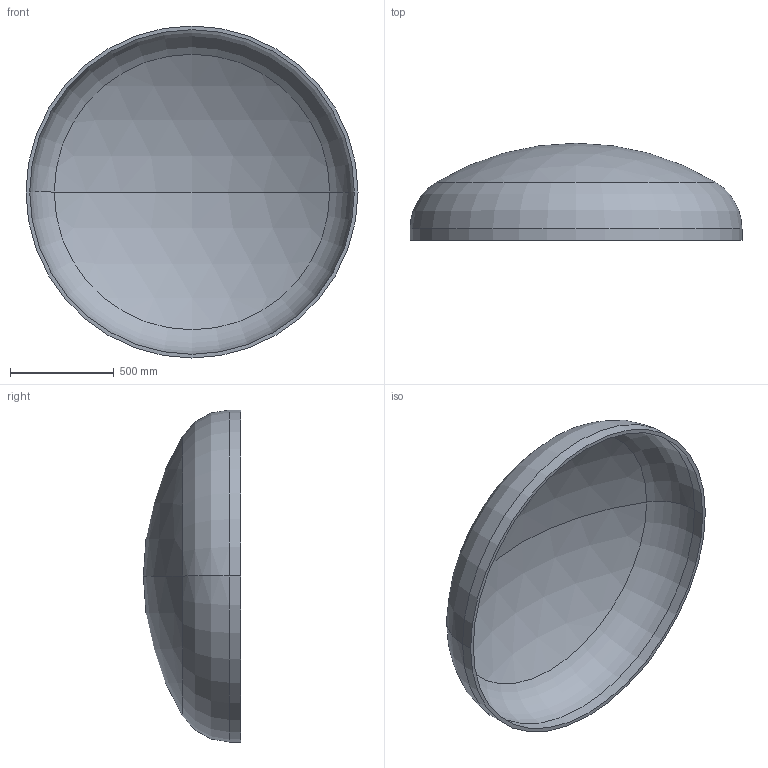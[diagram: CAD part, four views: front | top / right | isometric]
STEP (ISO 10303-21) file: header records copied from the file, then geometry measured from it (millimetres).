
FILE_DESCRIPTION (( 'STEP AP203' ), '1' );
FILE_NAME ('DIN 28013 Korbbogenform_-_Boden DIN 28013 - 1600 x 55 - I - s=18.step', '2016-07-01T11:07:33', ( '' ), ( '' ), 'SwSTEP 2.0', 'SolidWorks 2013', '' );
FILE_SCHEMA (( 'CONFIG_CONTROL_DESIGN' ));
Length unit declared in the file: millimetre
Products named in the file (1): DIN 28013 Korbbogenform_-_Boden DIN 28013 - 1600 x 55 - I - s=18
Bounding box: 1600 x 468.21 x 1600 mm (x, y, z)
Volume: 54249246.7 mm3; surface area: 6117830.5 mm2
Topology: 1 solids, 1 shells, 13 faces, 24 edges, 14 vertices
Faces by surface type: torus 4, cylinder 4, sphere 4, plane 1
Entity records: 407 total; most frequent: DIRECTION 72, CARTESIAN_POINT 52, ORIENTED_EDGE 48, AXIS2_PLACEMENT_3D 34, EDGE_CURVE 24, CIRCLE 20, EDGE_LOOP 14, VERTEX_POINT 14
